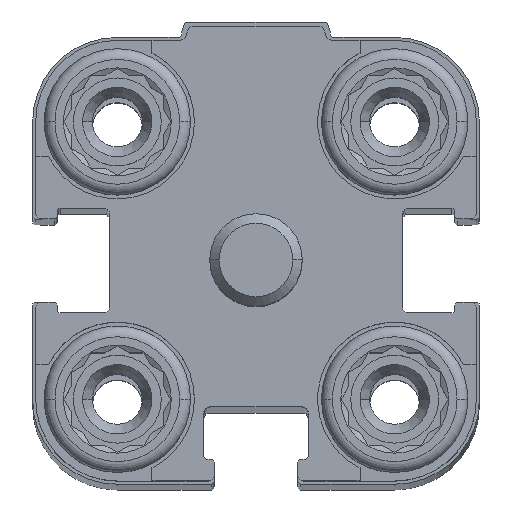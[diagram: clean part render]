
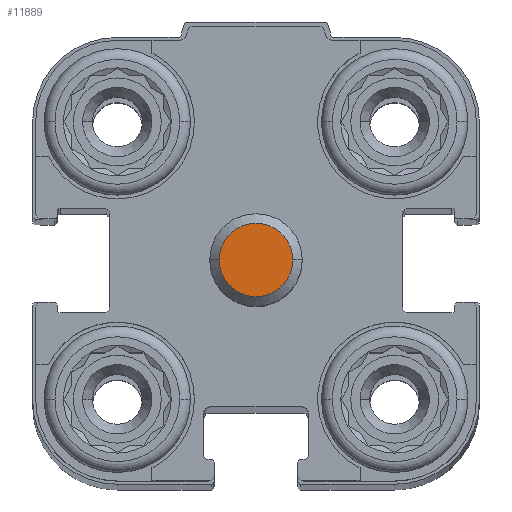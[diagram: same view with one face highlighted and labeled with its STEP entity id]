
A CAD part, top view. The second image highlights one B-rep face of the part: STEP entity #11889.
In plain terms, the highlighted planar face has unit normal (0, 0, 1).
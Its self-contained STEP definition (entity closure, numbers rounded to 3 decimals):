
#47 = CARTESIAN_POINT ( 'NONE',  ( 0., 0., 20.5 ) ) ;
#82 = ORIENTED_EDGE ( 'NONE', *, *, #17567, .F. ) ;
#397 = EDGE_LOOP ( 'NONE', ( #82, #4722 ) ) ;
#411 = DIRECTION ( 'NONE',  ( 0., 0., -1. ) ) ;
#2125 = CARTESIAN_POINT ( 'NONE',  ( 2.387, 0., 20.5 ) ) ;
#3370 = CARTESIAN_POINT ( 'NONE',  ( 0., 0., 20.5 ) ) ;
#4089 = AXIS2_PLACEMENT_3D ( 'NONE', #9318, #16347, #10943 ) ;
#4722 = ORIENTED_EDGE ( 'NONE', *, *, #8117, .F. ) ;
#6013 = VERTEX_POINT ( 'NONE', #2125 ) ;
#6349 = VERTEX_POINT ( 'NONE', #17619 ) ;
#8007 = AXIS2_PLACEMENT_3D ( 'NONE', #3370, #411, #11362 ) ;
#8117 = EDGE_CURVE ( 'NONE', #6013, #6349, #11833, .T. ) ;
#9318 = CARTESIAN_POINT ( 'NONE',  ( 0., 0., 20.5 ) ) ;
#10943 = DIRECTION ( 'NONE',  ( -1., 0., 0. ) ) ;
#11362 = DIRECTION ( 'NONE',  ( -1., 0., 0. ) ) ;
#11833 = CIRCLE ( 'NONE', #4089, 2.387 ) ;
#11889 = ADVANCED_FACE ( 'NONE', ( #16483 ), #16571, .F. ) ;
#13519 = DIRECTION ( 'NONE',  ( 0., 1., 0. ) ) ;
#13697 = DIRECTION ( 'NONE',  ( 0., 0., -1. ) ) ;
#15771 = CIRCLE ( 'NONE', #8007, 2.387 ) ;
#16347 = DIRECTION ( 'NONE',  ( 0., 0., -1. ) ) ;
#16483 = FACE_OUTER_BOUND ( 'NONE', #397, .T. ) ;
#16571 = PLANE ( 'NONE',  #17400 ) ;
#17400 = AXIS2_PLACEMENT_3D ( 'NONE', #47, #13697, #13519 ) ;
#17567 = EDGE_CURVE ( 'NONE', #6349, #6013, #15771, .T. ) ;
#17619 = CARTESIAN_POINT ( 'NONE',  ( -2.387, 0., 20.5 ) ) ;
